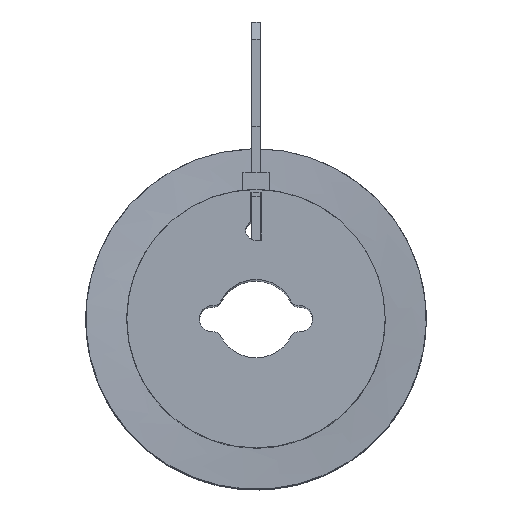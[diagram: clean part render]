
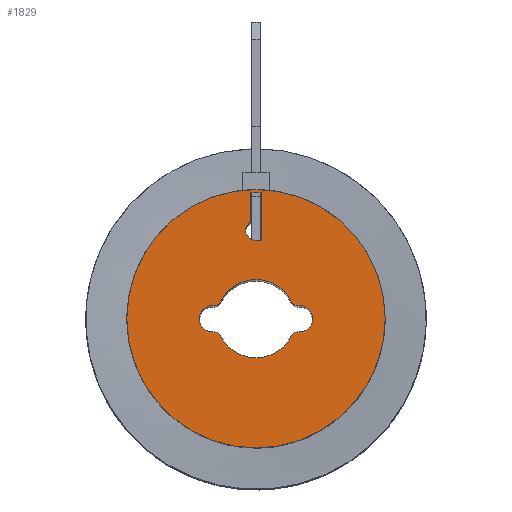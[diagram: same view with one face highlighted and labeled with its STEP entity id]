
A CAD part, top view. The second image highlights one B-rep face of the part: STEP entity #1829.
In plain terms, the highlighted planar face has unit normal (0, 0, 1).
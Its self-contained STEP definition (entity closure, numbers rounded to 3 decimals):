
#24=FACE_BOUND($,#340,.T.);
#25=FACE_BOUND($,#341,.T.);
#30=CIRCLE($,#1849,14.8);
#44=CIRCLE($,#1865,14.5);
#71=CIRCLE($,#1957,1.1);
#72=CIRCLE($,#1960,4.5);
#73=CIRCLE($,#1961,1.);
#74=CIRCLE($,#1962,1.5);
#75=CIRCLE($,#1963,1.);
#76=CIRCLE($,#1964,4.5);
#77=CIRCLE($,#1965,1.);
#78=CIRCLE($,#1966,1.5);
#79=CIRCLE($,#1967,1.);
#169=PLANE($,#1959);
#244=FACE_OUTER_BOUND($,#339,.T.);
#339=EDGE_LOOP($,(#1606));
#340=EDGE_LOOP($,(#1607,#1608,#1609,#1610,#1611));
#341=EDGE_LOOP($,(#1612,#1613,#1614,#1615,#1616,#1617,#1618,#1619));
#502=LINE($,#4658,#688);
#527=LINE($,#4712,#713);
#530=LINE($,#4721,#716);
#688=VECTOR($,#2324,0.7);
#713=VECTOR($,#2387,5.488);
#716=VECTOR($,#2398,3.408);
#748=VERTEX_POINT($,#4306);
#775=VERTEX_POINT($,#4364);
#776=VERTEX_POINT($,#4366);
#872=VERTEX_POINT($,#4655);
#873=VERTEX_POINT($,#4657);
#885=VERTEX_POINT($,#4716);
#886=VERTEX_POINT($,#4723);
#887=VERTEX_POINT($,#4724);
#888=VERTEX_POINT($,#4726);
#889=VERTEX_POINT($,#4728);
#890=VERTEX_POINT($,#4730);
#891=VERTEX_POINT($,#4732);
#892=VERTEX_POINT($,#4734);
#893=VERTEX_POINT($,#4736);
#922=EDGE_CURVE($,#748,#748,#30,.T.);
#952=EDGE_CURVE($,#776,#775,#44,.T.);
#1098=EDGE_CURVE($,#873,#872,#502,.T.);
#1126=EDGE_CURVE($,#775,#873,#527,.T.);
#1129=EDGE_CURVE($,#872,#885,#71,.T.);
#1131=EDGE_CURVE($,#885,#776,#530,.T.);
#1132=EDGE_CURVE($,#886,#887,#72,.T.);
#1133=EDGE_CURVE($,#887,#888,#73,.T.);
#1134=EDGE_CURVE($,#888,#889,#74,.T.);
#1135=EDGE_CURVE($,#889,#890,#75,.T.);
#1136=EDGE_CURVE($,#890,#891,#76,.T.);
#1137=EDGE_CURVE($,#891,#892,#77,.T.);
#1138=EDGE_CURVE($,#892,#893,#78,.T.);
#1139=EDGE_CURVE($,#893,#886,#79,.T.);
#1606=ORIENTED_EDGE($,*,*,#922,.T.);
#1607=ORIENTED_EDGE($,*,*,#1131,.T.);
#1608=ORIENTED_EDGE($,*,*,#952,.T.);
#1609=ORIENTED_EDGE($,*,*,#1126,.T.);
#1610=ORIENTED_EDGE($,*,*,#1098,.T.);
#1611=ORIENTED_EDGE($,*,*,#1129,.T.);
#1612=ORIENTED_EDGE($,*,*,#1132,.T.);
#1613=ORIENTED_EDGE($,*,*,#1133,.T.);
#1614=ORIENTED_EDGE($,*,*,#1134,.T.);
#1615=ORIENTED_EDGE($,*,*,#1135,.T.);
#1616=ORIENTED_EDGE($,*,*,#1136,.T.);
#1617=ORIENTED_EDGE($,*,*,#1137,.T.);
#1618=ORIENTED_EDGE($,*,*,#1138,.T.);
#1619=ORIENTED_EDGE($,*,*,#1139,.T.);
#1829=ADVANCED_FACE($,(#244,#24,#25),#169,.T.);
#1849=AXIS2_PLACEMENT_3D($,#4307,#2011,#2012);
#1865=AXIS2_PLACEMENT_3D($,#4367,#2059,#2060);
#1957=AXIS2_PLACEMENT_3D($,#4718,#2393,#2394);
#1959=AXIS2_PLACEMENT_3D($,#4722,#2399,#2400);
#1960=AXIS2_PLACEMENT_3D($,#4725,#2401,#2402);
#1961=AXIS2_PLACEMENT_3D($,#4727,#2403,#2404);
#1962=AXIS2_PLACEMENT_3D($,#4729,#2405,#2406);
#1963=AXIS2_PLACEMENT_3D($,#4731,#2407,#2408);
#1964=AXIS2_PLACEMENT_3D($,#4733,#2409,#2410);
#1965=AXIS2_PLACEMENT_3D($,#4735,#2411,#2412);
#1966=AXIS2_PLACEMENT_3D($,#4737,#2413,#2414);
#1967=AXIS2_PLACEMENT_3D($,#4738,#2415,#2416);
#2011=DIRECTION('center_axis',(0.,0.,
1.));
#2012=DIRECTION('ref_axis',(-1.,0.,0.));
#2059=DIRECTION('center_axis',(0.,0.,
-1.));
#2060=DIRECTION('ref_axis',(-1.,0.,0.));
#2324=DIRECTION($,(-1.,0.,0.));
#2387=DIRECTION($,(0.,-1.,0.));
#2393=DIRECTION('center_axis',(0.,0.,-1.));
#2394=DIRECTION('ref_axis',(0.455,-0.891,0.));
#2398=DIRECTION($,(0.,1.,0.));
#2399=DIRECTION('center_axis',(0.,0.,1.));
#2400=DIRECTION('ref_axis',(1.,0.,0.));
#2401=DIRECTION('center_axis',(0.,0.,-1.));
#2402=DIRECTION('ref_axis',(0.891,0.454,0.));
#2403=DIRECTION('center_axis',(0.,0.,1.));
#2404=DIRECTION('ref_axis',(0.891,0.454,0.));
#2405=DIRECTION('center_axis',(0.,0.,-1.));
#2406=DIRECTION('ref_axis',(-0.04,-0.999,0.));
#2407=DIRECTION('center_axis',(0.,0.,1.));
#2408=DIRECTION('ref_axis',(-0.04,-0.999,0.));
#2409=DIRECTION('center_axis',(0.,0.,-1.));
#2410=DIRECTION('ref_axis',(-0.891,-0.454,0.));
#2411=DIRECTION('center_axis',(0.,0.,1.));
#2412=DIRECTION('ref_axis',(-0.891,-0.454,0.));
#2413=DIRECTION('center_axis',(0.,0.,-1.));
#2414=DIRECTION('ref_axis',(0.04,0.999,0.));
#2415=DIRECTION('center_axis',(0.,0.,1.));
#2416=DIRECTION('ref_axis',(0.04,0.999,0.));
#4306=CARTESIAN_POINT('',(14.8,0.,54.));
#4307=CARTESIAN_POINT('Origin',(0.,0.,
54.));
#4364=CARTESIAN_POINT('',(0.6,14.488,54.));
#4366=CARTESIAN_POINT('',(-0.6,14.488,54.));
#4367=CARTESIAN_POINT('Origin',(0.,0.,
54.));
#4655=CARTESIAN_POINT('',(-0.1,9.,54.));
#4657=CARTESIAN_POINT('',(0.6,9.,54.));
#4658=CARTESIAN_POINT($,(-0.05,9.,54.));
#4712=CARTESIAN_POINT($,(0.6,4.5,54.));
#4716=CARTESIAN_POINT('',(-0.6,11.08,54.));
#4718=CARTESIAN_POINT('Origin',(-0.1,10.1,54.));
#4721=CARTESIAN_POINT($,(-0.6,7.244,54.));
#4722=CARTESIAN_POINT('Origin',(0.,0.,54.));
#4723=CARTESIAN_POINT('',(-4.009,2.044,54.));
#4724=CARTESIAN_POINT('',(4.009,2.044,54.));
#4725=CARTESIAN_POINT('Origin',(0.,0.,54.));
#4726=CARTESIAN_POINT('',(4.94,1.499,54.));
#4727=CARTESIAN_POINT('Origin',(4.9,2.498,54.));
#4728=CARTESIAN_POINT('',(4.94,-1.499,54.));
#4729=CARTESIAN_POINT('Origin',(5.,0.,54.));
#4730=CARTESIAN_POINT('',(4.009,-2.044,54.));
#4731=CARTESIAN_POINT('Origin',(4.9,-2.498,54.));
#4732=CARTESIAN_POINT('',(-4.009,-2.044,54.));
#4733=CARTESIAN_POINT('Origin',(0.,0.,54.));
#4734=CARTESIAN_POINT('',(-4.94,-1.499,54.));
#4735=CARTESIAN_POINT('Origin',(-4.9,-2.498,54.));
#4736=CARTESIAN_POINT('',(-4.94,1.499,54.));
#4737=CARTESIAN_POINT('Origin',(-5.,0.,54.));
#4738=CARTESIAN_POINT('Origin',(-4.9,2.498,54.));
